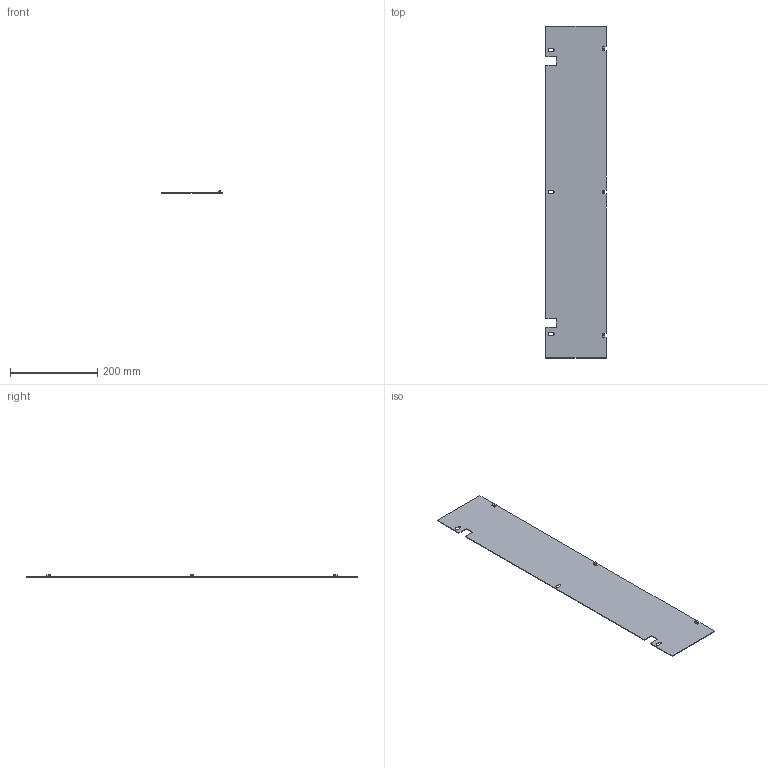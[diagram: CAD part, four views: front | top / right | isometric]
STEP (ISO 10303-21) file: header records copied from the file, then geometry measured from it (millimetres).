
FILE_DESCRIPTION (( 'STEP AP203' ), '1' );
FILE_NAME ('EUSV-015080.STEP', '2015-04-22T09:48:23', ( 'Admin' ), ( '' ), 'SwSTEP 2.0', 'SolidWorks 2014', '' );
FILE_SCHEMA (( 'CONFIG_CONTROL_DESIGN' ));
Length unit declared in the file: millimetre
Products named in the file (1): EUSV-015080
Bounding box: 138 x 760 x 5.95 mm (x, y, z)
Volume: 155424.7 mm3; surface area: 210391.2 mm2
Topology: 1 solids, 1 shells, 80 faces, 222 edges, 144 vertices
Faces by surface type: plane 59, cylinder 21
Entity records: 2621 total; most frequent: CARTESIAN_POINT 447, ORIENTED_EDGE 444, DIRECTION 426, EDGE_CURVE 222, LINE 180, VECTOR 180, VERTEX_POINT 144, AXIS2_PLACEMENT_3D 123
